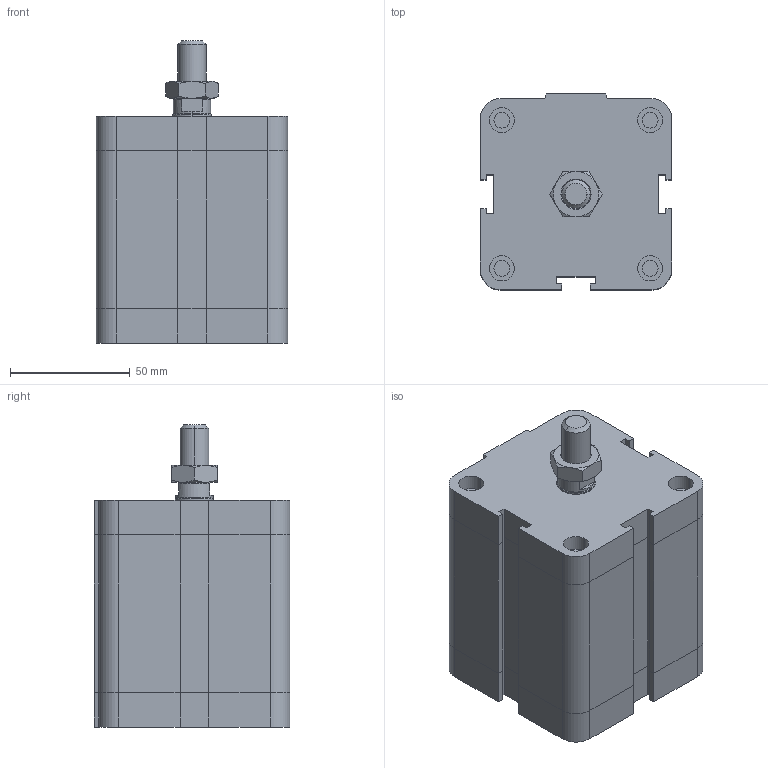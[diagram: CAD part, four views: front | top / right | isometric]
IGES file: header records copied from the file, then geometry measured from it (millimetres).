
Global section: file name: No Iges File Name specified; native system: Autodesk Inventor 2009; preprocessor: AutoDesk Inventor Iges Exporter R2009; author: rivolro1; date: 20081219.162453; units: millimetre
Bounding box: 80 x 82 x 126.5 mm (x, y, z)
Volume: 581334.7 mm3; surface area: 60753.5 mm2
Topology: 3 solids, 3 shells, 216 faces, 472 edges, 282 vertices
Faces by surface type: plane 121, bspline 37, cylinder 20, cone 20, revolution 18
